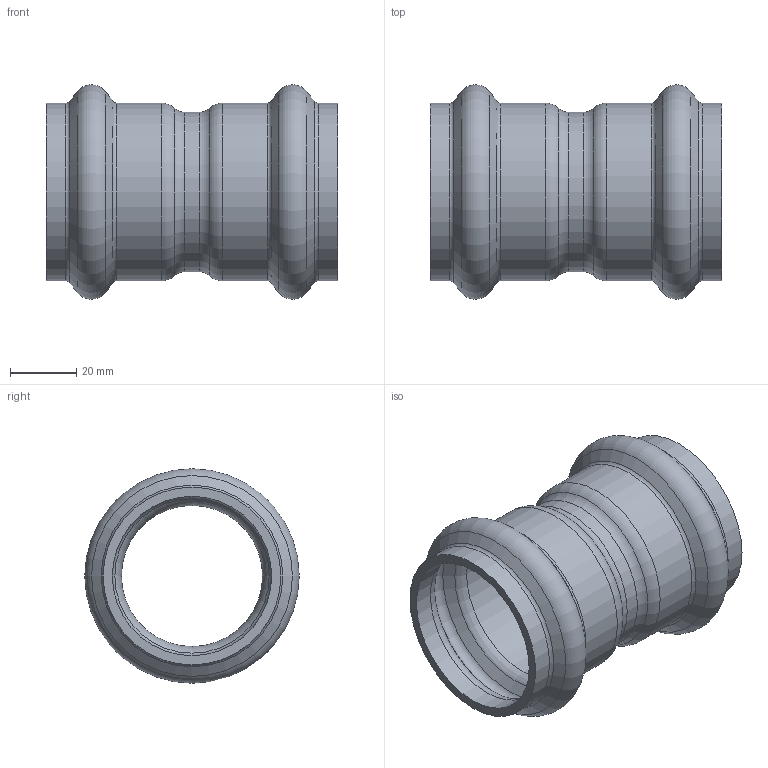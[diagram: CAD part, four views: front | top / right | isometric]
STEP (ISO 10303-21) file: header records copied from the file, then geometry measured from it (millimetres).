
FILE_DESCRIPTION(/* description */ ('VIC COUPLING STYLE P507 STD P X P','CAx-IF Rec.Pracs.---Representation and Presentation of Product Manufacturing Information (PMI)---4.0---2014-10-13'),/* implementation_level */ '2;1');
FILE_NAME(/* name */ 'C:\Users\kkamble\AppData\Roaming\Autodesk\ApplicationPlugins\Back Up\Victaulic_SS-Vic-Press-TP 316_Coupling Standard_Style P507 (VP)\Victaulic_SS-Vic-Press-TP 316_Coupling Standard_Style P507 (VP)_1.5 (40).stp',/* time_stamp */ '2020-08-14T11:54:50+05:00',/* author */ ('cgray'),/* organization */ ('Victaulic'),/* preprocessor_version */ 'ST-DEVELOPER v17.2',/* originating_system */ 'Autodesk Inventor 2019',/* authorisation */ '');
FILE_SCHEMA (('AP242_MANAGED_MODEL_BASED_3D_ENGINEERING_MIM_LF { 1 0 10303 442 1 1 4 }'));
Length unit declared in the file: inch
Products named in the file (1): P507-01.5
Bounding box: 88.39 x 64.94 x 64.94 mm (x, y, z)
Volume: 45291.8 mm3; surface area: 33605.8 mm2
Topology: 1 solids, 1 shells, 40 faces, 150 edges, 112 vertices
Faces by surface type: torus 20, cylinder 10, cone 8, plane 2
Full cylindrical faces by diameter (mm): 42.723 x1, 48.26 x5, 53.797 x4
Entity records: 1910 total; most frequent: DIRECTION 390, CARTESIAN_POINT 320, ORIENTED_EDGE 300, AXIS2_PLACEMENT_3D 186, EDGE_CURVE 150, CIRCLE 132, VERTEX_POINT 112, EDGE_LOOP 42
